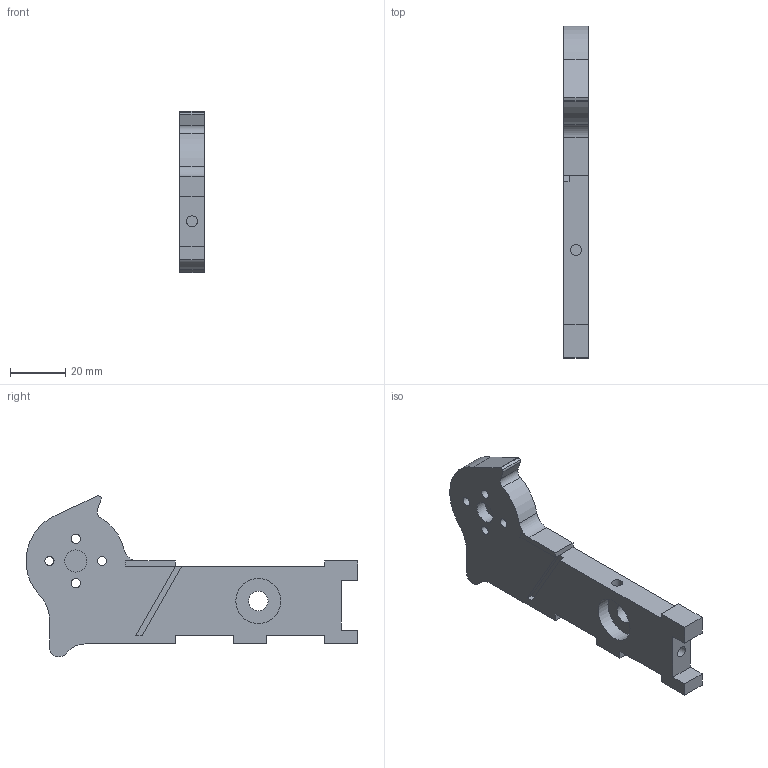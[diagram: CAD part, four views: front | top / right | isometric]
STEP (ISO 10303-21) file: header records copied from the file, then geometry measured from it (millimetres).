
FILE_DESCRIPTION(/* description */ (''),/* implementation_level */ '2;1');
FILE_NAME(/* name */ 'pared_derecha.step',/* time_stamp */ '2026-03-08T22:57:11+01:00',/* author */ (''),/* organization */ (''),/* preprocessor_version */ 'ST-DEVELOPER v20.1',/* originating_system */ 'Autodesk Translation Framework v14.24.0.0',/* authorisation */ '');
FILE_SCHEMA (('AUTOMOTIVE_DESIGN { 1 0 10303 214 3 1 1 }'));
Length unit declared in the file: millimetre
Products named in the file (1): Flanders (v3~recovered)
Bounding box: 9 x 119.95 x 58.26 mm (x, y, z)
Volume: 30879.9 mm3; surface area: 11760.2 mm2
Topology: 1 solids, 1 shells, 70 faces, 167 edges, 111 vertices
Faces by surface type: plane 42, cylinder 28
Full cylindrical faces by diameter (mm): 3.3 x4, 4 x6, 5.5 x4, 7 x1, 8 x1, 16.3 x1
Entity records: 2117 total; most frequent: DIRECTION 366, CARTESIAN_POINT 349, ORIENTED_EDGE 334, EDGE_CURVE 167, AXIS2_PLACEMENT_3D 128, VERTEX_POINT 111, LINE 110, VECTOR 110
